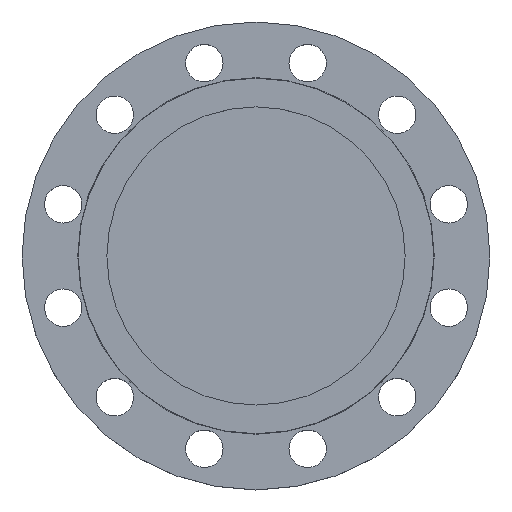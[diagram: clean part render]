
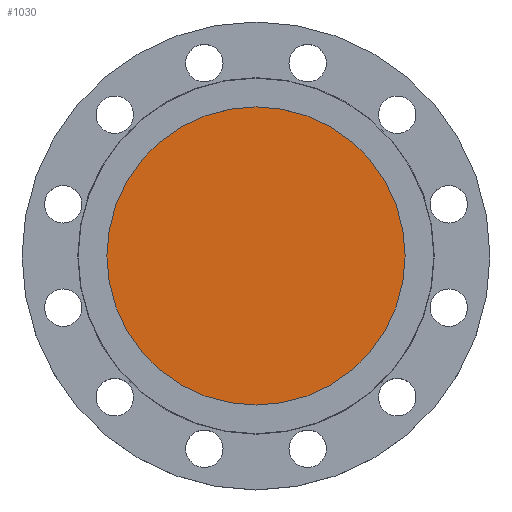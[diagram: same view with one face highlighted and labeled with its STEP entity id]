
A CAD part, top view. The second image highlights one B-rep face of the part: STEP entity #1030.
In plain terms, the highlighted planar face has unit normal (0, 0, 1).
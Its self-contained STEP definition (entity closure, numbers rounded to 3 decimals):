
#26 = EDGE_CURVE ( 'NONE', #891, #500, #167, .T. ) ;
#49 = FACE_OUTER_BOUND ( 'NONE', #123, .T. ) ;
#123 = EDGE_LOOP ( 'NONE', ( #177, #178 ) ) ;
#167 = CIRCLE ( 'NONE', #532, 119.5 ) ;
#177 = ORIENTED_EDGE ( 'NONE', *, *, #26, .F. ) ;
#178 = ORIENTED_EDGE ( 'NONE', *, *, #949, .F. ) ;
#245 = CARTESIAN_POINT ( 'NONE',  ( 119.5, 0., -5. ) ) ;
#388 = AXIS2_PLACEMENT_3D ( 'NONE', #510, #803, #1070 ) ;
#442 = DIRECTION ( 'NONE',  ( 1., 0., 0. ) ) ;
#500 = VERTEX_POINT ( 'NONE', #245 ) ;
#510 = CARTESIAN_POINT ( 'NONE',  ( 0., 0., -5. ) ) ;
#514 = CARTESIAN_POINT ( 'NONE',  ( 0., 0., -5. ) ) ;
#532 = AXIS2_PLACEMENT_3D ( 'NONE', #514, #805, #1072 ) ;
#543 = PLANE ( 'NONE',  #836 ) ;
#756 = CIRCLE ( 'NONE', #388, 119.5 ) ;
#803 = DIRECTION ( 'NONE',  ( 0., 0., -1. ) ) ;
#805 = DIRECTION ( 'NONE',  ( 0., 0., -1. ) ) ;
#836 = AXIS2_PLACEMENT_3D ( 'NONE', #837, #1107, #442 ) ;
#837 = CARTESIAN_POINT ( 'NONE',  ( 0., 0., -5. ) ) ;
#891 = VERTEX_POINT ( 'NONE', #1060 ) ;
#949 = EDGE_CURVE ( 'NONE', #500, #891, #756, .T. ) ;
#1030 = ADVANCED_FACE ( 'NONE', ( #49 ), #543, .T. ) ;
#1060 = CARTESIAN_POINT ( 'NONE',  ( -119.5, 0., -5. ) ) ;
#1070 = DIRECTION ( 'NONE',  ( -1., 0., 0. ) ) ;
#1072 = DIRECTION ( 'NONE',  ( -1., 0., 0. ) ) ;
#1107 = DIRECTION ( 'NONE',  ( 0., 0., 1. ) ) ;
